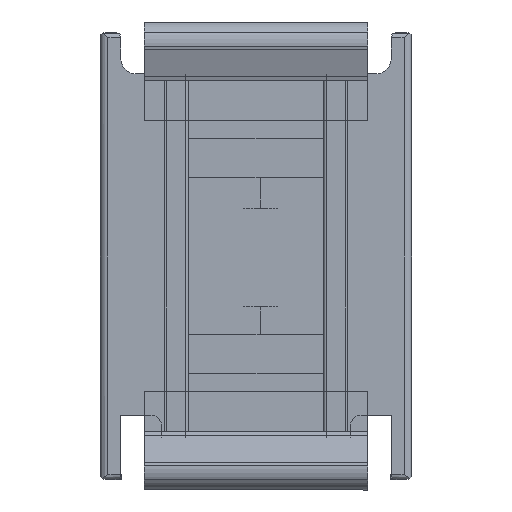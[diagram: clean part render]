
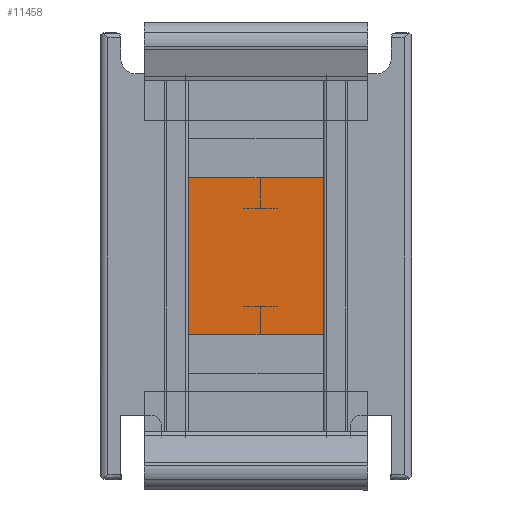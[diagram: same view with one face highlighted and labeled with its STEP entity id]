
A CAD part, front view. The second image highlights one B-rep face of the part: STEP entity #11458.
In plain terms, the highlighted planar face has unit normal (0, -1, 0).
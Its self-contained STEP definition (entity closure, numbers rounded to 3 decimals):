
#371 = DIRECTION ( 'NONE',  ( -1., 0., 0. ) ) ;
#2704 = CARTESIAN_POINT ( 'NONE',  ( 8651.9, -7816.2, 336.945 ) ) ;
#2846 = FACE_OUTER_BOUND ( 'NONE', #5415, .T. ) ;
#4152 = VERTEX_POINT ( 'NONE', #2704 ) ;
#4589 = DIRECTION ( 'NONE',  ( 0., -1., 0. ) ) ;
#5409 = VERTEX_POINT ( 'NONE', #8290 ) ;
#5415 = EDGE_LOOP ( 'NONE', ( #19291, #8256, #38861, #35914, #31239, #22251, #12631, #13430, #17772, #35644 ) ) ;
#7722 = AXIS2_PLACEMENT_3D ( 'NONE', #10748, #4589, #30646 ) ;
#8256 = ORIENTED_EDGE ( 'NONE', *, *, #12744, .F. ) ;
#8290 = CARTESIAN_POINT ( 'NONE',  ( 8640.5, -7816.2, 327.445 ) ) ;
#8433 = DIRECTION ( 'NONE',  ( -1., 0., 0. ) ) ;
#8714 = CARTESIAN_POINT ( 'NONE',  ( 8651.9, -7816.2, 327.445 ) ) ;
#9072 = DIRECTION ( 'NONE',  ( -1., 0., 0. ) ) ;
#9120 = CARTESIAN_POINT ( 'NONE',  ( 8654.3, -7816.2, 327.445 ) ) ;
#9176 = VECTOR ( 'NONE', #17719, 1000. ) ;
#9186 = VERTEX_POINT ( 'NONE', #8714 ) ;
#9495 = CARTESIAN_POINT ( 'NONE',  ( 8619.75, -7816.2, 327.445 ) ) ;
#9730 = DIRECTION ( 'NONE',  ( 0., 0., 1. ) ) ;
#10029 = CARTESIAN_POINT ( 'NONE',  ( 8642.9, -7816.2, 336.945 ) ) ;
#10748 = CARTESIAN_POINT ( 'NONE',  ( 8647.4, -7816.2, 336.945 ) ) ;
#11458 = ADVANCED_FACE ( 'NONE', ( #2846 ), #21715, .T. ) ;
#12039 = LINE ( 'NONE', #14803, #14794 ) ;
#12380 = DIRECTION ( 'NONE',  ( 0., -1., 0. ) ) ;
#12631 = ORIENTED_EDGE ( 'NONE', *, *, #38315, .F. ) ;
#12744 = EDGE_CURVE ( 'NONE', #20537, #5409, #37436, .T. ) ;
#12853 = VECTOR ( 'NONE', #8433, 1000. ) ;
#13080 = CARTESIAN_POINT ( 'NONE',  ( 8658.25, -7816.2, 327.445 ) ) ;
#13430 = ORIENTED_EDGE ( 'NONE', *, *, #38551, .T. ) ;
#14108 = LINE ( 'NONE', #20261, #39627 ) ;
#14269 = CARTESIAN_POINT ( 'NONE',  ( 8642.9, -7816.2, 351.945 ) ) ;
#14794 = VECTOR ( 'NONE', #21794, 1000. ) ;
#14803 = CARTESIAN_POINT ( 'NONE',  ( 8619.75, -7816.2, 409.445 ) ) ;
#15155 = CIRCLE ( 'NONE', #7722, 4.5 ) ;
#15176 = CARTESIAN_POINT ( 'NONE',  ( 8632.9, -7816.2, 327.445 ) ) ;
#15371 = CARTESIAN_POINT ( 'NONE',  ( 8651.9, -7816.2, 351.945 ) ) ;
#15599 = VERTEX_POINT ( 'NONE', #32486 ) ;
#15631 = LINE ( 'NONE', #9495, #24000 ) ;
#15814 = VECTOR ( 'NONE', #28004, 1000. ) ;
#16182 = CARTESIAN_POINT ( 'NONE',  ( 8661.9, -7816.2, 327.445 ) ) ;
#16510 = EDGE_CURVE ( 'NONE', #37572, #15599, #41479, .T. ) ;
#17491 = DIRECTION ( 'NONE',  ( -1., 0., 0. ) ) ;
#17494 = CARTESIAN_POINT ( 'NONE',  ( 8661.9, -7816.2, 409.445 ) ) ;
#17719 = DIRECTION ( 'NONE',  ( 0., 0., 1. ) ) ;
#17772 = ORIENTED_EDGE ( 'NONE', *, *, #24659, .F. ) ;
#18616 = CARTESIAN_POINT ( 'NONE',  ( 8632.9, -7816.2, 325.945 ) ) ;
#18982 = EDGE_CURVE ( 'NONE', #5409, #37572, #14108, .T. ) ;
#19291 = ORIENTED_EDGE ( 'NONE', *, *, #18982, .F. ) ;
#19936 = VECTOR ( 'NONE', #371, 1000. ) ;
#20261 = CARTESIAN_POINT ( 'NONE',  ( 8636.55, -7816.2, 327.445 ) ) ;
#20463 = EDGE_CURVE ( 'NONE', #38964, #9186, #15631, .T. ) ;
#20537 = VERTEX_POINT ( 'NONE', #35100 ) ;
#21715 = PLANE ( 'NONE',  #24697 ) ;
#21794 = DIRECTION ( 'NONE',  ( 1., 0., 0. ) ) ;
#22251 = ORIENTED_EDGE ( 'NONE', *, *, #20463, .F. ) ;
#22341 = CARTESIAN_POINT ( 'NONE',  ( 8619.75, -7816.2, 325.945 ) ) ;
#24000 = VECTOR ( 'NONE', #9072, 1000. ) ;
#24520 = VECTOR ( 'NONE', #9730, 1000. ) ;
#24659 = EDGE_CURVE ( 'NONE', #15599, #38411, #12039, .T. ) ;
#24697 = AXIS2_PLACEMENT_3D ( 'NONE', #22341, #12380, #35026 ) ;
#24942 = CARTESIAN_POINT ( 'NONE',  ( 8619.75, -7816.2, 327.445 ) ) ;
#25134 = DIRECTION ( 'NONE',  ( 0., 0., 1. ) ) ;
#25636 = VERTEX_POINT ( 'NONE', #10029 ) ;
#28004 = DIRECTION ( 'NONE',  ( 0., 0., -1. ) ) ;
#29582 = VERTEX_POINT ( 'NONE', #16182 ) ;
#29908 = EDGE_CURVE ( 'NONE', #25636, #20537, #30347, .T. ) ;
#30347 = LINE ( 'NONE', #14269, #15814 ) ;
#30646 = DIRECTION ( 'NONE',  ( 1., 0., 0. ) ) ;
#31239 = ORIENTED_EDGE ( 'NONE', *, *, #40765, .F. ) ;
#32486 = CARTESIAN_POINT ( 'NONE',  ( 8632.9, -7816.2, 409.445 ) ) ;
#33796 = CARTESIAN_POINT ( 'NONE',  ( 8661.9, -7816.2, 325.945 ) ) ;
#35026 = DIRECTION ( 'NONE',  ( 1., 0., 0. ) ) ;
#35100 = CARTESIAN_POINT ( 'NONE',  ( 8642.9, -7816.2, 327.445 ) ) ;
#35644 = ORIENTED_EDGE ( 'NONE', *, *, #16510, .F. ) ;
#35914 = ORIENTED_EDGE ( 'NONE', *, *, #36140, .F. ) ;
#36140 = EDGE_CURVE ( 'NONE', #4152, #25636, #15155, .T. ) ;
#37436 = LINE ( 'NONE', #24942, #12853 ) ;
#37572 = VERTEX_POINT ( 'NONE', #15176 ) ;
#38040 = LINE ( 'NONE', #15371, #41744 ) ;
#38315 = EDGE_CURVE ( 'NONE', #29582, #38964, #38912, .T. ) ;
#38411 = VERTEX_POINT ( 'NONE', #17494 ) ;
#38551 = EDGE_CURVE ( 'NONE', #29582, #38411, #39730, .T. ) ;
#38861 = ORIENTED_EDGE ( 'NONE', *, *, #29908, .F. ) ;
#38912 = LINE ( 'NONE', #13080, #19936 ) ;
#38964 = VERTEX_POINT ( 'NONE', #9120 ) ;
#39627 = VECTOR ( 'NONE', #17491, 1000. ) ;
#39730 = LINE ( 'NONE', #33796, #9176 ) ;
#40765 = EDGE_CURVE ( 'NONE', #9186, #4152, #38040, .T. ) ;
#41479 = LINE ( 'NONE', #18616, #24520 ) ;
#41744 = VECTOR ( 'NONE', #25134, 1000. ) ;
